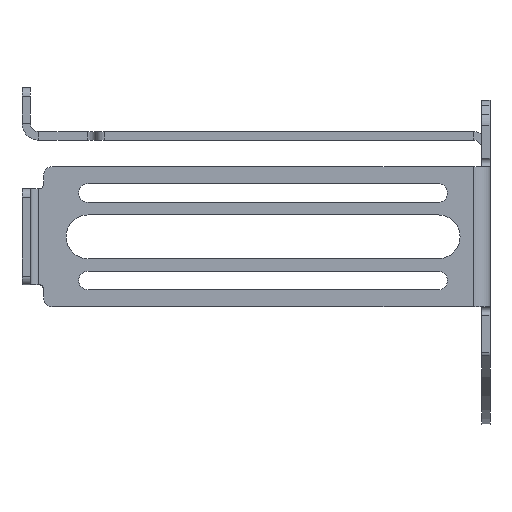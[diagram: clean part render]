
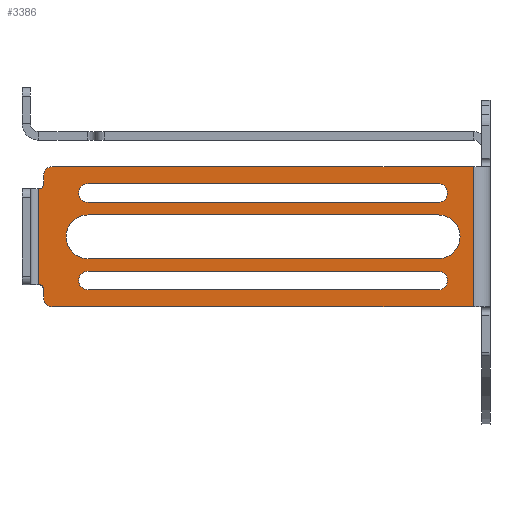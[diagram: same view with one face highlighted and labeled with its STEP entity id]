
A CAD part, left-side view. The second image highlights one B-rep face of the part: STEP entity #3386.
In plain terms, the highlighted planar face has unit normal (-1, 0, 0).
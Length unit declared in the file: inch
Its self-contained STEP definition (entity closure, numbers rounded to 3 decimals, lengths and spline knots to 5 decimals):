
#96=FACE_BOUND('',#587,.T.);
#97=FACE_BOUND('',#588,.T.);
#98=FACE_BOUND('',#589,.T.);
#99=FACE_BOUND('',#590,.T.);
#176=PLANE('',#3745);
#587=EDGE_LOOP('',(#3005,#3006,#3007,#3008));
#588=EDGE_LOOP('',(#3009,#3010,#3011,#3012));
#589=EDGE_LOOP('',(#3013,#3014,#3015,#3016));
#590=EDGE_LOOP('',(#3017,#3018,#3019,#3020,#3021,#3022,#3023,#3024,#3025,
#3026,#3027,#3028));
#714=LINE('',#5191,#1006);
#721=LINE('',#5209,#1013);
#723=LINE('',#5396,#1015);
#769=LINE('',#5510,#1061);
#773=LINE('',#5523,#1065);
#785=LINE('',#5558,#1077);
#789=LINE('',#5571,#1081);
#801=LINE('',#5606,#1093);
#805=LINE('',#5619,#1097);
#838=LINE('',#5688,#1130);
#846=LINE('',#5706,#1138);
#895=LINE('',#5844,#1187);
#896=LINE('',#5847,#1188);
#897=LINE('',#5851,#1189);
#1006=VECTOR('',#4110,0.0075);
#1013=VECTOR('',#4125,0.0075);
#1015=VECTOR('',#4191,1.375);
#1061=VECTOR('',#4315,5.);
#1065=VECTOR('',#4333,5.);
#1077=VECTOR('',#4363,5.);
#1081=VECTOR('',#4381,5.);
#1093=VECTOR('',#4411,5.);
#1097=VECTOR('',#4429,5.);
#1130=VECTOR('',#4522,6.01);
#1138=VECTOR('',#4540,0.1275);
#1187=VECTOR('',#4705,0.1275);
#1188=VECTOR('',#4708,2.);
#1189=VECTOR('',#4715,6.01);
#1295=CIRCLE('',#3527,0.06);
#1298=CIRCLE('',#3532,0.06);
#1326=CIRCLE('',#3601,0.133);
#1330=CIRCLE('',#3610,0.133);
#1334=CIRCLE('',#3617,0.133);
#1338=CIRCLE('',#3626,0.133);
#1342=CIRCLE('',#3633,0.3125);
#1346=CIRCLE('',#3642,0.3125);
#1347=CIRCLE('',#3671,0.125);
#1350=CIRCLE('',#3677,0.125);
#1555=VERTEX_POINT('',#5181);
#1556=VERTEX_POINT('',#5182);
#1559=VERTEX_POINT('',#5190);
#1563=VERTEX_POINT('',#5199);
#1564=VERTEX_POINT('',#5201);
#1566=VERTEX_POINT('',#5207);
#1609=VERTEX_POINT('',#5489);
#1610=VERTEX_POINT('',#5491);
#1616=VERTEX_POINT('',#5509);
#1618=VERTEX_POINT('',#5518);
#1625=VERTEX_POINT('',#5537);
#1626=VERTEX_POINT('',#5539);
#1632=VERTEX_POINT('',#5557);
#1634=VERTEX_POINT('',#5566);
#1641=VERTEX_POINT('',#5585);
#1642=VERTEX_POINT('',#5587);
#1648=VERTEX_POINT('',#5605);
#1650=VERTEX_POINT('',#5614);
#1651=VERTEX_POINT('',#5675);
#1652=VERTEX_POINT('',#5676);
#1656=VERTEX_POINT('',#5686);
#1660=VERTEX_POINT('',#5700);
#1661=VERTEX_POINT('',#5701);
#1693=VERTEX_POINT('',#5846);
#1884=EDGE_CURVE('',#1555,#1556,#1295,.T.);
#1888=EDGE_CURVE('',#1559,#1556,#714,.T.);
#1893=EDGE_CURVE('',#1563,#1564,#1298,.T.);
#1897=EDGE_CURVE('',#1563,#1566,#721,.T.);
#1924=EDGE_CURVE('',#1566,#1559,#723,.T.);
#1972=EDGE_CURVE('',#1610,#1609,#1326,.T.);
#1981=EDGE_CURVE('',#1616,#1610,#769,.T.);
#1986=EDGE_CURVE('',#1618,#1616,#1330,.T.);
#1989=EDGE_CURVE('',#1609,#1618,#773,.T.);
#1996=EDGE_CURVE('',#1626,#1625,#1334,.T.);
#2005=EDGE_CURVE('',#1632,#1626,#785,.T.);
#2010=EDGE_CURVE('',#1634,#1632,#1338,.T.);
#2013=EDGE_CURVE('',#1625,#1634,#789,.T.);
#2020=EDGE_CURVE('',#1642,#1641,#1342,.T.);
#2029=EDGE_CURVE('',#1648,#1642,#801,.T.);
#2034=EDGE_CURVE('',#1650,#1648,#1346,.T.);
#2037=EDGE_CURVE('',#1641,#1650,#805,.T.);
#2066=EDGE_CURVE('',#1651,#1652,#1347,.T.);
#2072=EDGE_CURVE('',#1656,#1651,#838,.T.);
#2079=EDGE_CURVE('',#1660,#1661,#1350,.T.);
#2082=EDGE_CURVE('',#1564,#1660,#846,.T.);
#2151=EDGE_CURVE('',#1652,#1555,#895,.T.);
#2152=EDGE_CURVE('',#1656,#1693,#896,.T.);
#2155=EDGE_CURVE('',#1661,#1693,#897,.T.);
#3005=ORIENTED_EDGE('',*,*,#1986,.T.);
#3006=ORIENTED_EDGE('',*,*,#1981,.T.);
#3007=ORIENTED_EDGE('',*,*,#1972,.T.);
#3008=ORIENTED_EDGE('',*,*,#1989,.T.);
#3009=ORIENTED_EDGE('',*,*,#2010,.T.);
#3010=ORIENTED_EDGE('',*,*,#2005,.T.);
#3011=ORIENTED_EDGE('',*,*,#1996,.T.);
#3012=ORIENTED_EDGE('',*,*,#2013,.T.);
#3013=ORIENTED_EDGE('',*,*,#2034,.T.);
#3014=ORIENTED_EDGE('',*,*,#2029,.T.);
#3015=ORIENTED_EDGE('',*,*,#2020,.T.);
#3016=ORIENTED_EDGE('',*,*,#2037,.T.);
#3017=ORIENTED_EDGE('',*,*,#2066,.F.);
#3018=ORIENTED_EDGE('',*,*,#2072,.F.);
#3019=ORIENTED_EDGE('',*,*,#2152,.T.);
#3020=ORIENTED_EDGE('',*,*,#2155,.F.);
#3021=ORIENTED_EDGE('',*,*,#2079,.F.);
#3022=ORIENTED_EDGE('',*,*,#2082,.F.);
#3023=ORIENTED_EDGE('',*,*,#1893,.F.);
#3024=ORIENTED_EDGE('',*,*,#1897,.T.);
#3025=ORIENTED_EDGE('',*,*,#1924,.T.);
#3026=ORIENTED_EDGE('',*,*,#1888,.T.);
#3027=ORIENTED_EDGE('',*,*,#1884,.F.);
#3028=ORIENTED_EDGE('',*,*,#2151,.F.);
#3386=ADVANCED_FACE('',(#96,#97,#98,#99),#176,.F.);
#3527=AXIS2_PLACEMENT_3D('',#5183,#4102,#4103);
#3532=AXIS2_PLACEMENT_3D('',#5202,#4118,#4119);
#3601=AXIS2_PLACEMENT_3D('',#5492,#4299,#4300);
#3610=AXIS2_PLACEMENT_3D('',#5519,#4327,#4328);
#3617=AXIS2_PLACEMENT_3D('',#5540,#4347,#4348);
#3626=AXIS2_PLACEMENT_3D('',#5567,#4375,#4376);
#3633=AXIS2_PLACEMENT_3D('',#5588,#4395,#4396);
#3642=AXIS2_PLACEMENT_3D('',#5615,#4423,#4424);
#3671=AXIS2_PLACEMENT_3D('',#5677,#4512,#4513);
#3677=AXIS2_PLACEMENT_3D('',#5702,#4534,#4535);
#3745=AXIS2_PLACEMENT_3D('',#5857,#4725,#4726);
#4102=DIRECTION('center_axis',(-1.,0.,0.));
#4103=DIRECTION('ref_axis',(0.,-0.707,0.707));
#4110=DIRECTION('',(0.,-1.,0.));
#4118=DIRECTION('center_axis',(-1.,0.,0.));
#4119=DIRECTION('ref_axis',(0.,-0.707,-0.707));
#4125=DIRECTION('',(0.,1.,0.));
#4191=DIRECTION('',(0.,0.,-1.));
#4299=DIRECTION('center_axis',(1.,0.,0.));
#4300=DIRECTION('ref_axis',(0.,0.,-1.));
#4315=DIRECTION('',(0.,-1.,0.));
#4327=DIRECTION('center_axis',(1.,0.,0.));
#4328=DIRECTION('ref_axis',(0.,0.,1.));
#4333=DIRECTION('',(0.,1.,0.));
#4347=DIRECTION('center_axis',(1.,0.,0.));
#4348=DIRECTION('ref_axis',(0.,0.,-1.));
#4363=DIRECTION('',(0.,-1.,0.));
#4375=DIRECTION('center_axis',(1.,0.,0.));
#4376=DIRECTION('ref_axis',(0.,0.,1.));
#4381=DIRECTION('',(0.,1.,0.));
#4395=DIRECTION('center_axis',(1.,0.,0.));
#4396=DIRECTION('ref_axis',(0.,0.,-1.));
#4411=DIRECTION('',(0.,-1.,0.));
#4423=DIRECTION('center_axis',(1.,0.,0.));
#4424=DIRECTION('ref_axis',(0.,0.,1.));
#4429=DIRECTION('',(0.,1.,0.));
#4512=DIRECTION('center_axis',(1.,0.,0.));
#4513=DIRECTION('ref_axis',(0.,0.707,-0.707));
#4522=DIRECTION('',(0.,1.,0.));
#4534=DIRECTION('center_axis',(1.,0.,0.));
#4535=DIRECTION('ref_axis',(0.,0.707,0.707));
#4540=DIRECTION('',(0.,0.,1.));
#4705=DIRECTION('',(0.,0.,1.));
#4708=DIRECTION('',(0.,0.,1.));
#4715=DIRECTION('',(0.,-1.,0.));
#4725=DIRECTION('center_axis',(1.,0.,0.));
#4726=DIRECTION('ref_axis',(0.,0.,1.));
#5181=CARTESIAN_POINT('',(-2.2875,6.375,-0.7475));
#5182=CARTESIAN_POINT('',(-2.2875,6.435,-0.6875));
#5183=CARTESIAN_POINT('Origin',(-2.2875,6.435,-0.7475));
#5190=CARTESIAN_POINT('',(-2.2875,6.4425,-0.6875));
#5191=CARTESIAN_POINT('',(-2.2875,6.5625,-0.6875));
#5199=CARTESIAN_POINT('',(-2.2875,6.435,0.6875));
#5201=CARTESIAN_POINT('',(-2.2875,6.375,0.7475));
#5202=CARTESIAN_POINT('Origin',(-2.2875,6.435,0.7475));
#5207=CARTESIAN_POINT('',(-2.2875,6.4425,0.6875));
#5209=CARTESIAN_POINT('',(-2.2875,6.375,0.6875));
#5396=CARTESIAN_POINT('',(-2.2875,6.4425,-0.34375));
#5489=CARTESIAN_POINT('',(-2.2875,0.74,0.492));
#5491=CARTESIAN_POINT('',(-2.2875,0.74,0.758));
#5492=CARTESIAN_POINT('Origin',(-2.2875,0.74,0.625));
#5509=CARTESIAN_POINT('',(-2.2875,5.74,0.758));
#5510=CARTESIAN_POINT('',(-2.2875,4.45589,0.758));
#5518=CARTESIAN_POINT('',(-2.2875,5.74,0.492));
#5519=CARTESIAN_POINT('Origin',(-2.2875,5.74,0.625));
#5523=CARTESIAN_POINT('',(-2.2875,1.95589,0.492));
#5537=CARTESIAN_POINT('',(-2.2875,0.74,-0.758));
#5539=CARTESIAN_POINT('',(-2.2875,0.74,-0.492));
#5540=CARTESIAN_POINT('Origin',(-2.2875,0.74,-0.625));
#5557=CARTESIAN_POINT('',(-2.2875,5.74,-0.492));
#5558=CARTESIAN_POINT('',(-2.2875,4.45589,-0.492));
#5566=CARTESIAN_POINT('',(-2.2875,5.74,-0.758));
#5567=CARTESIAN_POINT('Origin',(-2.2875,5.74,-0.625));
#5571=CARTESIAN_POINT('',(-2.2875,1.95589,-0.758));
#5585=CARTESIAN_POINT('',(-2.2875,0.74,-0.3125));
#5587=CARTESIAN_POINT('',(-2.2875,0.74,0.3125));
#5588=CARTESIAN_POINT('Origin',(-2.2875,0.74,0.));
#5605=CARTESIAN_POINT('',(-2.2875,5.74,0.3125));
#5606=CARTESIAN_POINT('',(-2.2875,4.45589,0.3125));
#5614=CARTESIAN_POINT('',(-2.2875,5.74,-0.3125));
#5615=CARTESIAN_POINT('Origin',(-2.2875,5.74,0.));
#5619=CARTESIAN_POINT('',(-2.2875,1.95589,-0.3125));
#5675=CARTESIAN_POINT('',(-2.2875,6.25,-1.));
#5676=CARTESIAN_POINT('',(-2.2875,6.375,-0.875));
#5677=CARTESIAN_POINT('Origin',(-2.2875,6.25,-0.875));
#5686=CARTESIAN_POINT('',(-2.2875,0.24,-1.));
#5688=CARTESIAN_POINT('',(-2.2875,0.24,-1.));
#5700=CARTESIAN_POINT('',(-2.2875,6.375,0.875));
#5701=CARTESIAN_POINT('',(-2.2875,6.25,1.));
#5702=CARTESIAN_POINT('Origin',(-2.2875,6.25,0.875));
#5706=CARTESIAN_POINT('',(-2.2875,6.375,-1.));
#5844=CARTESIAN_POINT('',(-2.2875,6.375,-1.));
#5846=CARTESIAN_POINT('',(-2.2875,0.24,1.));
#5847=CARTESIAN_POINT('',(-2.2875,0.24,0.));
#5851=CARTESIAN_POINT('',(-2.2875,-0.30287,1.));
#5857=CARTESIAN_POINT('Origin',(-2.2875,3.17178,0.));
